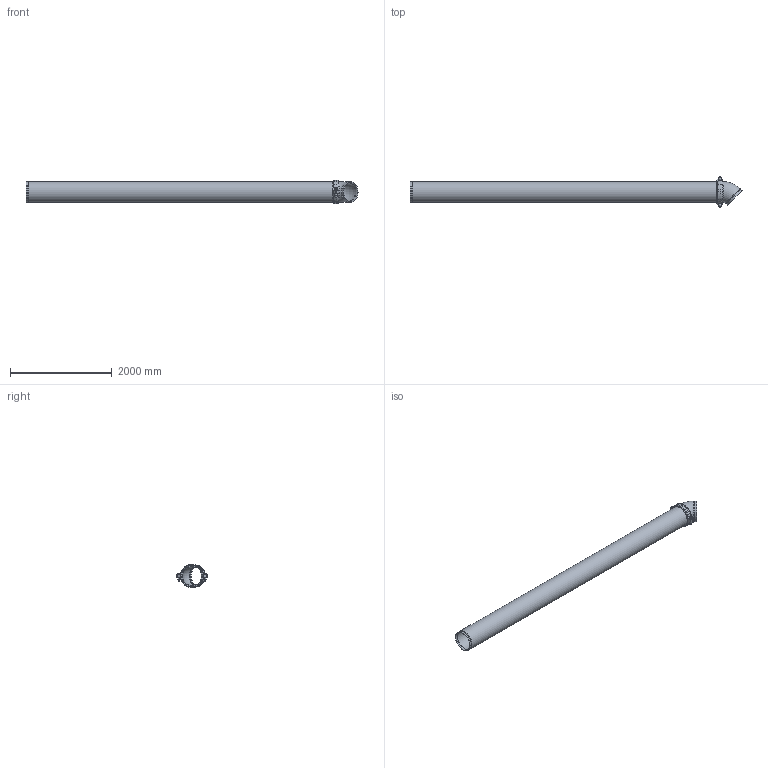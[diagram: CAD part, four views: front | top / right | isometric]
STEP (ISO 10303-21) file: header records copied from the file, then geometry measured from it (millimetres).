
FILE_DESCRIPTION(/* description */ ('VIC AGS LONG RUN FITTING No WR11 (AGS)','CAx-IF Rec.Pracs.---Representation and Presentation of Product Manufacturing Information (PMI)---4.0---2014-10-13'),/* implementation_level */ '2;1');
FILE_NAME(/* name */ 'C:\Users\Vjadhav\AppData\Roaming\Autodesk\ApplicationPlugins\Back Up\Victaulic_AGS_Long Run Fittings_No WR11 (AGS)\Victaulic_AGS_Long Run Fittings_No WR11 (AGS)_16 (400).stp',/* time_stamp */ '2020-10-14T15:37:30+05:00',/* author */ ('Vjadhav'),/* organization */ ('Victaulic'),/* preprocessor_version */ 'ST-DEVELOPER v17.2',/* originating_system */ 'Autodesk Inventor 2019',/* authorisation */ '');
FILE_SCHEMA (('AP242_MANAGED_MODEL_BASED_3D_ENGINEERING_MIM_LF { 1 0 10303 442 1 1 4 }'));
Length unit declared in the file: inch
Products named in the file (4): WR11-16.0; WR10-16.0; W07-16.0; W11-16.0
Assembly tree (3 placements, depth 2):
  WR11-16.0
    WR10-16.0
    W07-16.0
    W11-16.0
Bounding box: 6533.51 x 596.9 x 460.37 mm (x, y, z)
Volume: 82883146.9 mm3; surface area: 16573853.5 mm2
Topology: 3 solids, 5 shells, 119 faces, 334 edges, 237 vertices
Faces by surface type: plane 50, cylinder 41, torus 18, cone 8, sphere 2
Full cylindrical faces by diameter (mm): 25.4 x4, 42.85 x2, 374.396 x2, 381 x1, 387.35 x1, 393.7 x4, 406.4 x9
Entity records: 4628 total; most frequent: CARTESIAN_POINT 1063, DIRECTION 745, ORIENTED_EDGE 668, EDGE_CURVE 334, AXIS2_PLACEMENT_3D 301, VERTEX_POINT 237, CIRCLE 171, LINE 143
